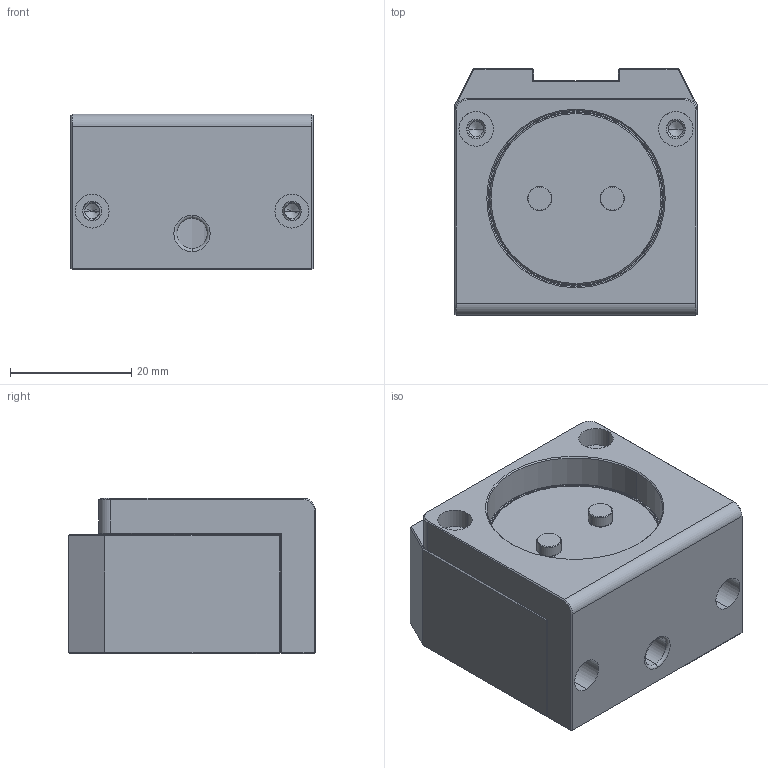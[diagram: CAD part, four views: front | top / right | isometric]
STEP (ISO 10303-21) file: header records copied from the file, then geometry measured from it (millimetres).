
FILE_DESCRIPTION (( 'STEP AP203' ), '1' );
FILE_NAME ('QCHFM-02高频模块夹具侧.STEP', '2023-12-27T09:04:02', ( '微软用户' ), ( '微软中国' ), 'SwSTEP 2.0', 'SolidWorks 2018', '' );
FILE_SCHEMA (( 'CONFIG_CONTROL_DESIGN' ));
Length unit declared in the file: millimetre
Products named in the file (1): QCHFM-02詢け耀輸標撿耜
Bounding box: 40 x 40.8 x 25.7 mm (x, y, z)
Volume: 31638.2 mm3; surface area: 11541.9 mm2
Topology: 9 solids, 9 shells, 308 faces, 703 edges, 428 vertices
Faces by surface type: plane 133, cylinder 99, cone 62, torus 10, bspline 4
Entity records: 9141 total; most frequent: CARTESIAN_POINT 2297, DIRECTION 1398, ORIENTED_EDGE 1390, EDGE_CURVE 695, AXIS2_PLACEMENT_3D 561, VERTEX_POINT 428, EDGE_LOOP 345, ADVANCED_FACE 308
